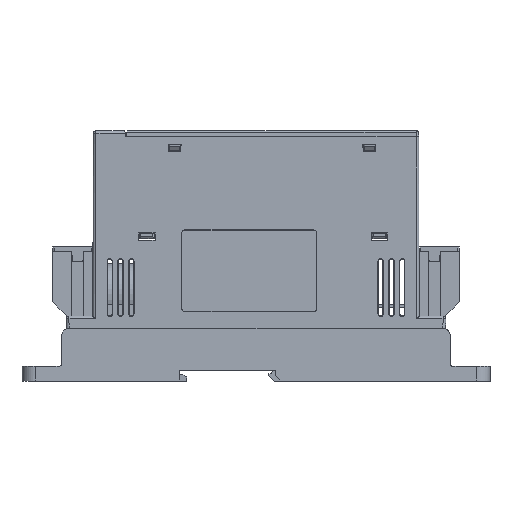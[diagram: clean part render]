
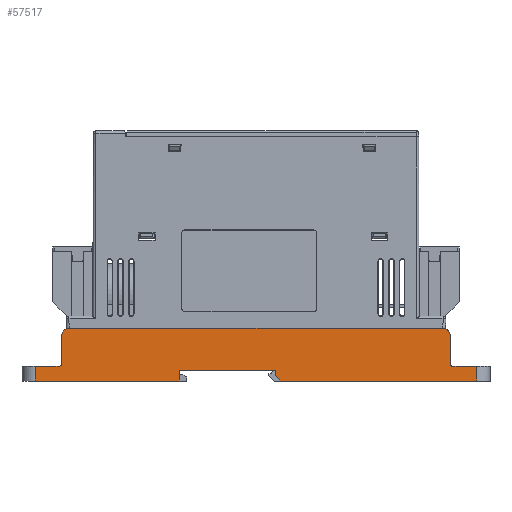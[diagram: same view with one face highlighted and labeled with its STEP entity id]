
A CAD part, left-side view. The second image highlights one B-rep face of the part: STEP entity #57517.
In plain terms, the highlighted planar face has unit normal (-1, 0, 0.009).
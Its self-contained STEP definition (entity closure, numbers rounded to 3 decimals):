
#3919=LINE('',#84948,#10722);
#6050=LINE('',#90113,#12853);
#6101=LINE('',#90223,#12904);
#6108=LINE('',#90242,#12911);
#6111=LINE('',#90249,#12914);
#6112=LINE('',#90251,#12915);
#6113=LINE('',#90253,#12916);
#6114=LINE('',#90254,#12917);
#6115=LINE('',#90256,#12918);
#6116=LINE('',#90258,#12919);
#6117=LINE('',#90260,#12920);
#6118=LINE('',#90262,#12921);
#6119=LINE('',#90264,#12922);
#10722=VECTOR('',#67863,10.);
#12853=VECTOR('',#72616,10.);
#12904=VECTOR('',#72697,10.);
#12911=VECTOR('',#72716,10.);
#12914=VECTOR('',#72723,10.);
#12915=VECTOR('',#72724,10.);
#12916=VECTOR('',#72725,10.);
#12917=VECTOR('',#72726,10.);
#12918=VECTOR('',#72727,10.);
#12919=VECTOR('',#72728,10.);
#12920=VECTOR('',#72729,10.);
#12921=VECTOR('',#72730,10.);
#12922=VECTOR('',#72731,10.);
#16131=PLANE('',#60991);
#18820=FACE_OUTER_BOUND('',#21865,.T.);
#21865=EDGE_LOOP('',(#48985,#48986,#48987,#48988,#48989,#48990,#48991,#48992,
#48993,#48994,#48995,#48996,#48997,#48998,#48999,#49000,#49001));
#23461=ELLIPSE('',#60992,1.,1.);
#23462=ELLIPSE('',#60993,3.,3.);
#23463=ELLIPSE('',#60994,3.,3.);
#23464=ELLIPSE('',#60995,1.,1.);
#24117=VERTEX_POINT('',#77806);
#24130=VERTEX_POINT('',#77833);
#27789=VERTEX_POINT('',#90110);
#27790=VERTEX_POINT('',#90112);
#27833=VERTEX_POINT('',#90221);
#27834=VERTEX_POINT('',#90222);
#27839=VERTEX_POINT('',#90239);
#27840=VERTEX_POINT('',#90241);
#27841=VERTEX_POINT('',#90247);
#27842=VERTEX_POINT('',#90248);
#27843=VERTEX_POINT('',#90250);
#27844=VERTEX_POINT('',#90252);
#27845=VERTEX_POINT('',#90255);
#27846=VERTEX_POINT('',#90257);
#27847=VERTEX_POINT('',#90259);
#27848=VERTEX_POINT('',#90261);
#27849=VERTEX_POINT('',#90263);
#32562=EDGE_CURVE('',#24130,#24117,#3919,.T.);
#35050=EDGE_CURVE('',#27789,#27790,#6050,.T.);
#35104=EDGE_CURVE('',#27833,#27834,#6101,.T.);
#35114=EDGE_CURVE('',#27839,#27840,#6108,.T.);
#35117=EDGE_CURVE('',#27841,#27842,#6111,.T.);
#35118=EDGE_CURVE('',#27842,#27843,#6112,.T.);
#35119=EDGE_CURVE('',#27844,#27843,#6113,.T.);
#35120=EDGE_CURVE('',#27790,#27844,#6114,.T.);
#35121=EDGE_CURVE('',#27789,#27845,#6115,.T.);
#35122=EDGE_CURVE('',#27845,#27846,#6116,.T.);
#35123=EDGE_CURVE('',#27847,#27846,#6117,.T.);
#35124=EDGE_CURVE('',#27847,#27848,#6118,.T.);
#35125=EDGE_CURVE('',#27848,#27849,#6119,.T.);
#35126=EDGE_CURVE('',#27840,#27849,#23461,.T.);
#35127=EDGE_CURVE('',#27839,#24117,#23462,.T.);
#35128=EDGE_CURVE('',#24130,#27833,#23463,.T.);
#35129=EDGE_CURVE('',#27841,#27834,#23464,.T.);
#48985=ORIENTED_EDGE('',*,*,#35117,.T.);
#48986=ORIENTED_EDGE('',*,*,#35118,.T.);
#48987=ORIENTED_EDGE('',*,*,#35119,.F.);
#48988=ORIENTED_EDGE('',*,*,#35120,.F.);
#48989=ORIENTED_EDGE('',*,*,#35050,.F.);
#48990=ORIENTED_EDGE('',*,*,#35121,.T.);
#48991=ORIENTED_EDGE('',*,*,#35122,.T.);
#48992=ORIENTED_EDGE('',*,*,#35123,.F.);
#48993=ORIENTED_EDGE('',*,*,#35124,.T.);
#48994=ORIENTED_EDGE('',*,*,#35125,.T.);
#48995=ORIENTED_EDGE('',*,*,#35126,.F.);
#48996=ORIENTED_EDGE('',*,*,#35114,.F.);
#48997=ORIENTED_EDGE('',*,*,#35127,.T.);
#48998=ORIENTED_EDGE('',*,*,#32562,.F.);
#48999=ORIENTED_EDGE('',*,*,#35128,.T.);
#49000=ORIENTED_EDGE('',*,*,#35104,.T.);
#49001=ORIENTED_EDGE('',*,*,#35129,.F.);
#57517=ADVANCED_FACE('',(#18820),#16131,.F.);
#60991=AXIS2_PLACEMENT_3D('',#90246,#72721,#72722);
#60992=AXIS2_PLACEMENT_3D('',#90265,#72732,#72733);
#60993=AXIS2_PLACEMENT_3D('',#90266,#72734,#72735);
#60994=AXIS2_PLACEMENT_3D('',#90267,#72736,#72737);
#60995=AXIS2_PLACEMENT_3D('',#90268,#72738,#72739);
#67863=DIRECTION('',(0.,-1.,0.));
#72616=DIRECTION('',(0.,1.,0.));
#72697=DIRECTION('',(-0.009,0.,-1.));
#72716=DIRECTION('',(-0.009,0.,-1.));
#72721=DIRECTION('center_axis',(1.,0.,-0.009));
#72722=DIRECTION('ref_axis',(-0.009,0.,-1.));
#72723=DIRECTION('',(0.,1.,0.));
#72724=DIRECTION('',(-0.009,0.,-1.));
#72725=DIRECTION('',(0.,1.,0.));
#72726=DIRECTION('',(-0.009,0.035,-0.999));
#72727=DIRECTION('',(-0.009,-0.035,-0.999));
#72728=DIRECTION('',(-0.006,-0.719,-0.695));
#72729=DIRECTION('',(0.,1.,0.));
#72730=DIRECTION('',(0.009,0.,1.));
#72731=DIRECTION('',(0.,1.,0.));
#72732=DIRECTION('center_axis',(-1.,0.,0.009));
#72733=DIRECTION('ref_axis',(0.009,0.,1.));
#72734=DIRECTION('center_axis',(-1.,0.,0.009));
#72735=DIRECTION('ref_axis',(0.009,0.,1.));
#72736=DIRECTION('center_axis',(-1.,0.,0.009));
#72737=DIRECTION('ref_axis',(0.009,0.,1.));
#72738=DIRECTION('center_axis',(-1.,0.,0.009));
#72739=DIRECTION('ref_axis',(0.009,0.,1.));
#77806=CARTESIAN_POINT('',(-195.3,-62.9,0.));
#77833=CARTESIAN_POINT('',(-195.3,75.7,0.));
#84948=CARTESIAN_POINT('',(-195.3,75.7,0.));
#90110=CARTESIAN_POINT('',(-195.437,-0.71,-15.7));
#90112=CARTESIAN_POINT('',(-195.437,34.789,-15.7));
#90113=CARTESIAN_POINT('',(-195.437,-0.71,-15.7));
#90221=CARTESIAN_POINT('',(-195.326,78.7,-3.));
#90222=CARTESIAN_POINT('',(-195.415,78.7,-13.2));
#90223=CARTESIAN_POINT('',(-195.326,78.7,-3.));
#90239=CARTESIAN_POINT('',(-195.326,-65.9,-3.));
#90241=CARTESIAN_POINT('',(-195.415,-65.9,-13.2));
#90242=CARTESIAN_POINT('',(-195.326,-65.9,-3.));
#90246=CARTESIAN_POINT('Origin',(-196.042,17.4,-84.997));
#90247=CARTESIAN_POINT('',(-195.424,79.7,-14.2));
#90248=CARTESIAN_POINT('',(-195.424,88.5,-14.2));
#90249=CARTESIAN_POINT('',(-195.424,79.7,-14.2));
#90250=CARTESIAN_POINT('',(-195.472,88.5,-19.7));
#90251=CARTESIAN_POINT('',(-195.424,88.5,-14.2));
#90252=CARTESIAN_POINT('',(-195.472,34.928,-19.7));
#90253=CARTESIAN_POINT('',(-195.472,34.928,-19.7));
#90254=CARTESIAN_POINT('',(-195.437,34.789,-15.7));
#90255=CARTESIAN_POINT('',(-195.454,-0.78,-17.701));
#90256=CARTESIAN_POINT('',(-195.437,-0.71,-15.7));
#90257=CARTESIAN_POINT('',(-195.472,-2.85,-19.7));
#90258=CARTESIAN_POINT('',(-195.454,-0.78,-17.701));
#90259=CARTESIAN_POINT('',(-195.472,-75.7,-19.7));
#90260=CARTESIAN_POINT('',(-195.472,-75.7,-19.7));
#90261=CARTESIAN_POINT('',(-195.424,-75.7,-14.2));
#90262=CARTESIAN_POINT('',(-195.472,-75.7,-19.7));
#90263=CARTESIAN_POINT('',(-195.424,-66.9,-14.2));
#90264=CARTESIAN_POINT('',(-195.424,-75.7,-14.2));
#90265=CARTESIAN_POINT('Origin',(-195.415,-66.9,-13.2));
#90266=CARTESIAN_POINT('Origin',(-195.326,-62.9,-3.));
#90267=CARTESIAN_POINT('Origin',(-195.326,75.7,-3.));
#90268=CARTESIAN_POINT('Origin',(-195.415,79.7,-13.2));
